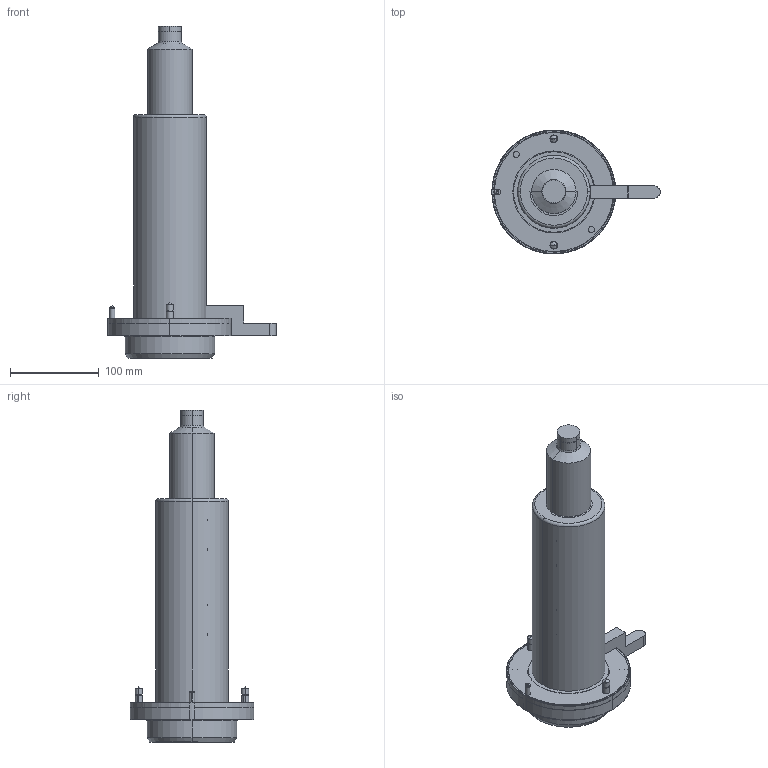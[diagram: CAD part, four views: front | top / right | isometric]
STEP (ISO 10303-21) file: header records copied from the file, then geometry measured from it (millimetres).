
FILE_DESCRIPTION (( 'STEP AP214' ), '1' );
FILE_NAME ('SB15_CLOSED_A350.STEP', '2009-07-28T13:04:53', ( 'Synventive Molding Solutions' ), ( 'Synventive Molding Solutions' ), 'SwSTEP 2.0', 'SolidWorks 2008', '' );
FILE_SCHEMA (( 'AUTOMOTIVE_DESIGN' ));
Length unit declared in the file: millimetre
Products named in the file (1): SB15_CLOSED_A350
Bounding box: 190 x 140 x 375 mm (x, y, z)
Volume: 2780683.4 mm3; surface area: 261694.7 mm2
Topology: 4 solids, 9 shells, 683 faces, 1696 edges, 1052 vertices
Faces by surface type: cylinder 274, plane 240, torus 82, cone 75, sphere 8, bspline 4
Entity records: 29420 total; most frequent: CARTESIAN_POINT 5590, DIRECTION 3524, ORIENTED_EDGE 3352, EDGE_CURVE 1676, AXIS2_PLACEMENT_3D 1378, VERTEX_POINT 1052, VECTOR 768, LINE 768
